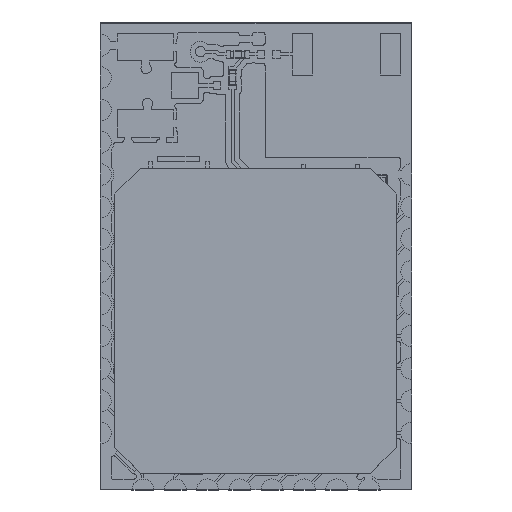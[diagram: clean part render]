
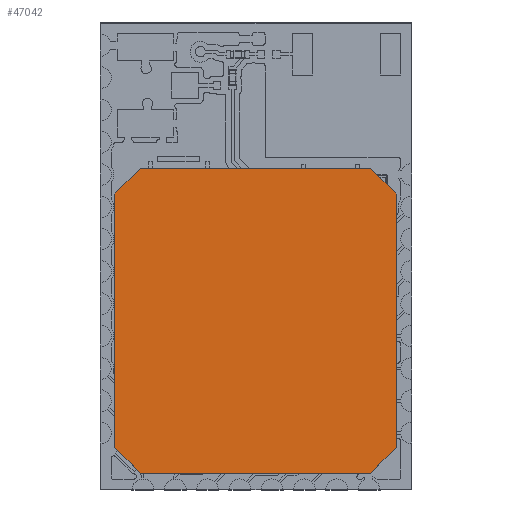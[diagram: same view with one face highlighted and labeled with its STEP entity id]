
A CAD part, top view. The second image highlights one B-rep face of the part: STEP entity #47042.
In plain terms, the highlighted planar face has unit normal (0, 0, 1).
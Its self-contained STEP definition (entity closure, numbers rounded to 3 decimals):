
#6421=FACE_OUTER_BOUND('',#8963,.T.);
#8963=EDGE_LOOP('',(#42670,#42671,#42672,#42673,#42674,#42675,#42676,#42677));
#13665=LINE('',#80738,#18449);
#13666=LINE('',#80740,#18450);
#13667=LINE('',#80742,#18451);
#13668=LINE('',#80744,#18452);
#13669=LINE('',#80746,#18453);
#13670=LINE('',#80748,#18454);
#13671=LINE('',#80750,#18455);
#13672=LINE('',#80751,#18456);
#18449=VECTOR('',#66591,1.);
#18450=VECTOR('',#66592,1.);
#18451=VECTOR('',#66593,1.);
#18452=VECTOR('',#66594,1.);
#18453=VECTOR('',#66595,1.);
#18454=VECTOR('',#66596,1.);
#18455=VECTOR('',#66597,1.);
#18456=VECTOR('',#66598,1.);
#22952=VERTEX_POINT('',#80736);
#22953=VERTEX_POINT('',#80737);
#22954=VERTEX_POINT('',#80739);
#22955=VERTEX_POINT('',#80741);
#22956=VERTEX_POINT('',#80743);
#22957=VERTEX_POINT('',#80745);
#22958=VERTEX_POINT('',#80747);
#22959=VERTEX_POINT('',#80749);
#29547=EDGE_CURVE('',#22952,#22953,#13665,.T.);
#29548=EDGE_CURVE('',#22953,#22954,#13666,.T.);
#29549=EDGE_CURVE('',#22954,#22955,#13667,.T.);
#29550=EDGE_CURVE('',#22955,#22956,#13668,.T.);
#29551=EDGE_CURVE('',#22956,#22957,#13669,.T.);
#29552=EDGE_CURVE('',#22957,#22958,#13670,.T.);
#29553=EDGE_CURVE('',#22958,#22959,#13671,.T.);
#29554=EDGE_CURVE('',#22959,#22952,#13672,.T.);
#42670=ORIENTED_EDGE('',*,*,#29547,.T.);
#42671=ORIENTED_EDGE('',*,*,#29548,.T.);
#42672=ORIENTED_EDGE('',*,*,#29549,.T.);
#42673=ORIENTED_EDGE('',*,*,#29550,.T.);
#42674=ORIENTED_EDGE('',*,*,#29551,.T.);
#42675=ORIENTED_EDGE('',*,*,#29552,.T.);
#42676=ORIENTED_EDGE('',*,*,#29553,.T.);
#42677=ORIENTED_EDGE('',*,*,#29554,.T.);
#44599=PLANE('',#52993);
#47042=ADVANCED_FACE('',(#6421),#44599,.T.);
#52993=AXIS2_PLACEMENT_3D('',#80735,#66589,#66590);
#66589=DIRECTION('center_axis',(0.,0.,1.));
#66590=DIRECTION('ref_axis',(1.,0.,0.));
#66591=DIRECTION('',(-0.707,-0.707,0.));
#66592=DIRECTION('',(0.,-1.,0.));
#66593=DIRECTION('',(0.707,-0.707,0.));
#66594=DIRECTION('',(1.,0.,0.));
#66595=DIRECTION('',(0.707,0.707,0.));
#66596=DIRECTION('',(0.,1.,0.));
#66597=DIRECTION('',(-0.707,0.707,0.));
#66598=DIRECTION('',(-1.,0.,0.));
#80735=CARTESIAN_POINT('Origin',(1.43,-0.33,1.3));
#80736=CARTESIAN_POINT('',(-3.02,5.57,1.3));
#80737=CARTESIAN_POINT('',(-4.02,4.57,1.3));
#80738=CARTESIAN_POINT('',(-3.52,5.07,1.3));
#80739=CARTESIAN_POINT('',(-4.02,-5.23,1.3));
#80740=CARTESIAN_POINT('',(-4.02,-0.33,1.3));
#80741=CARTESIAN_POINT('',(-3.02,-6.23,1.3));
#80742=CARTESIAN_POINT('',(-3.52,-5.73,1.3));
#80743=CARTESIAN_POINT('',(5.88,-6.23,1.3));
#80744=CARTESIAN_POINT('',(1.43,-6.23,1.3));
#80745=CARTESIAN_POINT('',(6.88,-5.23,1.3));
#80746=CARTESIAN_POINT('',(6.38,-5.73,1.3));
#80747=CARTESIAN_POINT('',(6.88,4.57,1.3));
#80748=CARTESIAN_POINT('',(6.88,-0.33,1.3));
#80749=CARTESIAN_POINT('',(5.88,5.57,1.3));
#80750=CARTESIAN_POINT('',(6.38,5.07,1.3));
#80751=CARTESIAN_POINT('',(1.43,5.57,1.3));
